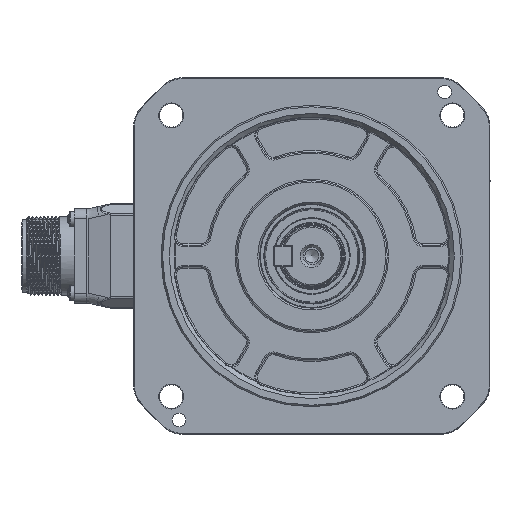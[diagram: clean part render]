
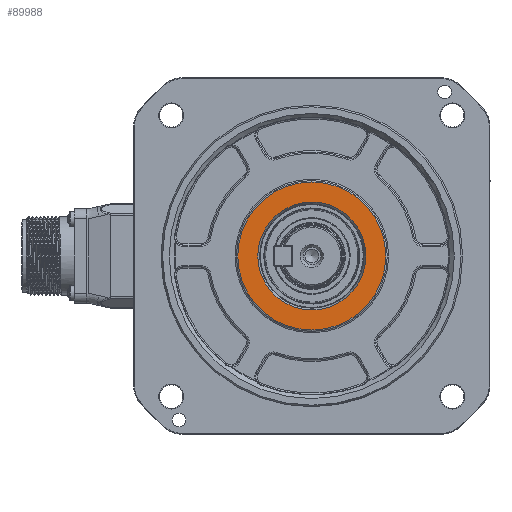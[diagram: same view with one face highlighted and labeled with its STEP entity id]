
A CAD part, left-side view. The second image highlights one B-rep face of the part: STEP entity #89988.
In plain terms, the highlighted planar face has unit normal (-1, 0, 0).
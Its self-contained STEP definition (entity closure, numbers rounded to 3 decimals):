
#1516 = DIRECTION ( 'NONE',  ( -1., 0., 0. ) ) ;
#2245 = EDGE_LOOP ( 'NONE', ( #3660 ) ) ;
#3660 = ORIENTED_EDGE ( 'NONE', *, *, #61254, .F. ) ;
#6662 = CARTESIAN_POINT ( 'NONE',  ( 0.8, 0., -19.693 ) ) ;
#7816 = AXIS2_PLACEMENT_3D ( 'NONE', #52948, #60221, #100235 ) ;
#11756 = FACE_OUTER_BOUND ( 'NONE', #61522, .T. ) ;
#23231 = EDGE_CURVE ( 'NONE', #28470, #28470, #38179, .T. ) ;
#28330 = CARTESIAN_POINT ( 'NONE',  ( 0.8, 27.5, 0. ) ) ;
#28470 = VERTEX_POINT ( 'NONE', #104168 ) ;
#28994 = DIRECTION ( 'NONE',  ( 0., 0., -1. ) ) ;
#38146 = DIRECTION ( 'NONE',  ( 1., 0., 0. ) ) ;
#38179 = CIRCLE ( 'NONE', #94755, 27. ) ;
#42891 = ORIENTED_EDGE ( 'NONE', *, *, #23231, .T. ) ;
#52948 = CARTESIAN_POINT ( 'NONE',  ( 0.8, 0., 0. ) ) ;
#59137 = PLANE ( 'NONE',  #117190 ) ;
#60221 = DIRECTION ( 'NONE',  ( -1., 0., 0. ) ) ;
#61254 = EDGE_CURVE ( 'NONE', #118138, #118138, #83217, .T. ) ;
#61522 = EDGE_LOOP ( 'NONE', ( #42891 ) ) ;
#78824 = FACE_BOUND ( 'NONE', #2245, .T. ) ;
#83217 = CIRCLE ( 'NONE', #7816, 19.693 ) ;
#89988 = ADVANCED_FACE ( 'NONE', ( #78824, #11756 ), #59137, .F. ) ;
#91295 = CARTESIAN_POINT ( 'NONE',  ( 0.8, 0., 0. ) ) ;
#94755 = AXIS2_PLACEMENT_3D ( 'NONE', #91295, #1516, #129391 ) ;
#100235 = DIRECTION ( 'NONE',  ( 0., 0., -1. ) ) ;
#104168 = CARTESIAN_POINT ( 'NONE',  ( 0.8, 0., -27. ) ) ;
#117190 = AXIS2_PLACEMENT_3D ( 'NONE', #28330, #38146, #28994 ) ;
#118138 = VERTEX_POINT ( 'NONE', #6662 ) ;
#129391 = DIRECTION ( 'NONE',  ( 0., 0., -1. ) ) ;
